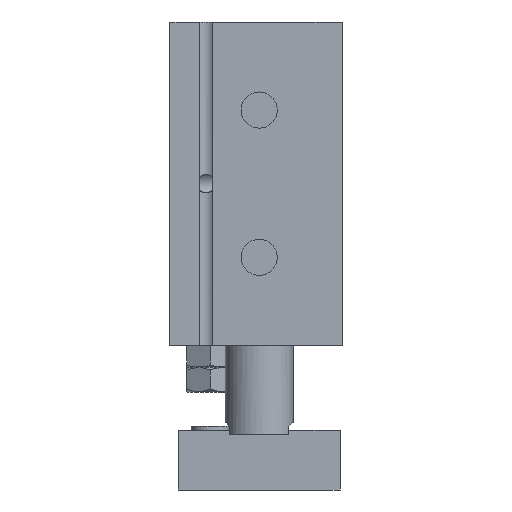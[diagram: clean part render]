
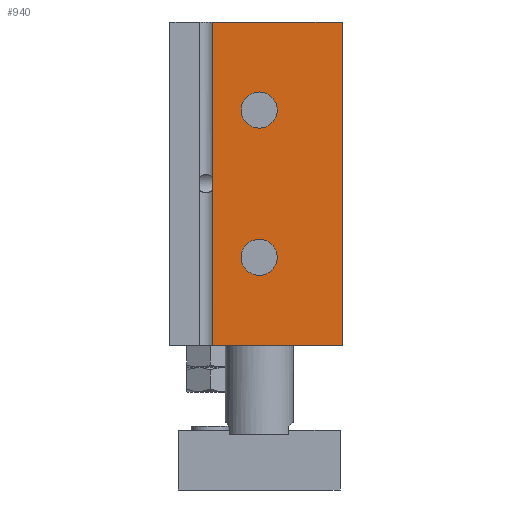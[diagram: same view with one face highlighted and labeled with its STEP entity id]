
A CAD part, front view. The second image highlights one B-rep face of the part: STEP entity #940.
In plain terms, the highlighted planar face has unit normal (0, -1, 0).
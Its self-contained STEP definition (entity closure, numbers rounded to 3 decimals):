
#778=CARTESIAN_POINT('',(-11.,-48.,110.));
#779=VERTEX_POINT('',#778);
#787=CARTESIAN_POINT('',(-11.,-48.,34.));
#788=VERTEX_POINT('',#787);
#795=CARTESIAN_POINT('',(-11.,-48.,110.));
#796=DIRECTION('',(0.0,0.0,-1.0));
#797=VECTOR('',#796,76.0);
#798=LINE('',#795,#797);
#799=EDGE_CURVE('',#779,#788,#798,.T.);
#888=CARTESIAN_POINT('',(19.5,-48.,34.0));
#889=DIRECTION('',(0.0,-1.0,0.0));
#890=DIRECTION('',(0.0,0.0,-1.0));
#891=AXIS2_PLACEMENT_3D('',#888,#889,#890);
#892=PLANE('',#891);
#893=ORIENTED_EDGE('',*,*,#799,.T.);
#894=CARTESIAN_POINT('',(19.5,-48.,34.0));
#895=VERTEX_POINT('',#894);
#896=CARTESIAN_POINT('',(19.5,-48.,34.0));
#897=DIRECTION('',(-1.0,0.0,0.0));
#898=VECTOR('',#897,30.5);
#899=LINE('',#896,#898);
#900=EDGE_CURVE('',#895,#788,#899,.T.);
#901=ORIENTED_EDGE('',*,*,#900,.F.);
#902=CARTESIAN_POINT('',(19.5,-48.,110.));
#903=VERTEX_POINT('',#902);
#904=CARTESIAN_POINT('',(19.5,-48.,34.0));
#905=DIRECTION('',(0.0,0.0,1.0));
#906=VECTOR('',#905,76.);
#907=LINE('',#904,#906);
#908=EDGE_CURVE('',#895,#903,#907,.T.);
#909=ORIENTED_EDGE('',*,*,#908,.T.);
#910=CARTESIAN_POINT('',(19.5,-48.,110.));
#911=DIRECTION('',(-1.0,0.0,0.0));
#912=VECTOR('',#911,30.5);
#913=LINE('',#910,#912);
#914=EDGE_CURVE('',#903,#779,#913,.T.);
#915=ORIENTED_EDGE('',*,*,#914,.T.);
#916=EDGE_LOOP('',(#893,#901,#909,#915));
#917=FACE_OUTER_BOUND('',#916,.T.);
#918=CARTESIAN_POINT('',(4.25,-48.,89.3));
#919=VERTEX_POINT('',#918);
#920=CARTESIAN_POINT('',(0.0,-48.,89.3));
#921=DIRECTION('',(0.0,1.0,0.0));
#922=DIRECTION('',(-1.0,0.0,0.0));
#923=AXIS2_PLACEMENT_3D('',#920,#921,#922);
#924=CIRCLE('',#923,4.25);
#925=EDGE_CURVE('',#919,#919,#924,.T.);
#926=ORIENTED_EDGE('',*,*,#925,.T.);
#927=EDGE_LOOP('',(#926));
#928=FACE_BOUND('',#927,.T.);
#929=CARTESIAN_POINT('',(4.25,-48.,54.7));
#930=VERTEX_POINT('',#929);
#931=CARTESIAN_POINT('',(0.0,-48.,54.7));
#932=DIRECTION('',(0.0,1.0,0.0));
#933=DIRECTION('',(-1.0,0.0,0.0));
#934=AXIS2_PLACEMENT_3D('',#931,#932,#933);
#935=CIRCLE('',#934,4.25);
#936=EDGE_CURVE('',#930,#930,#935,.T.);
#937=ORIENTED_EDGE('',*,*,#936,.T.);
#938=EDGE_LOOP('',(#937));
#939=FACE_BOUND('',#938,.T.);
#940=ADVANCED_FACE('',(#917,#928,#939),#892,.T.);
